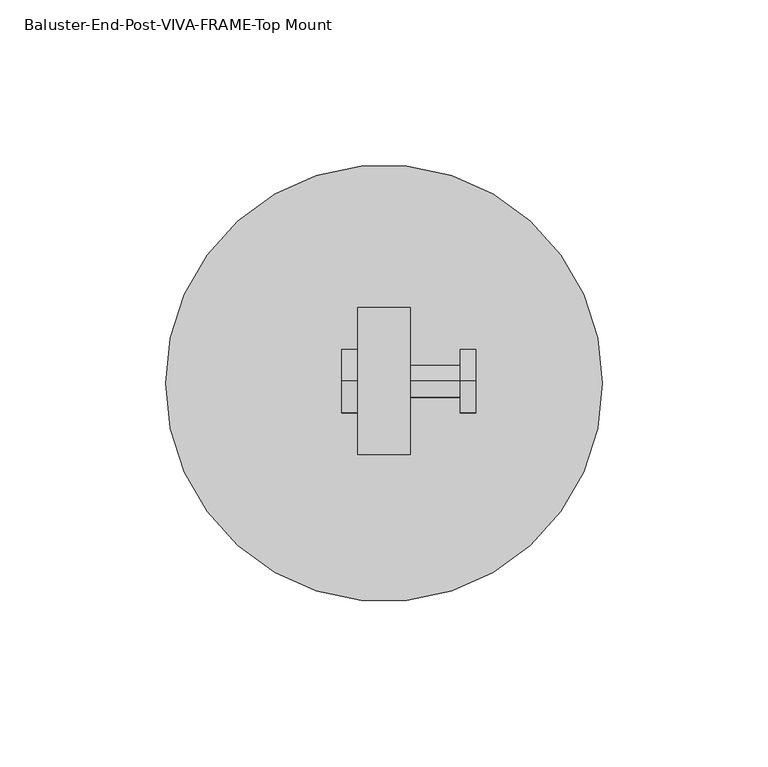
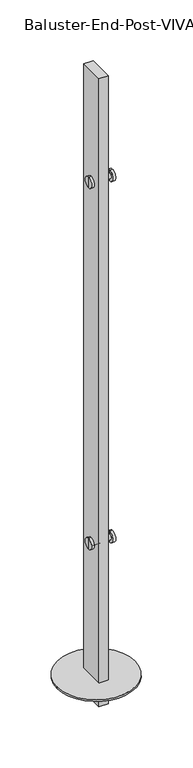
"""IFC4 building model written with IfcOpenShell, lengths in millimetres: proxy geometry, Baluster-End-Post-VIVA-FRAME-Top Mount : CORED INTO CONCRETE_TOP MOUNT FOLD_STRAIGHT."""

from ifc_helpers import new_model, si_unit, point, frame, frame_2d, origin, place, context, project, spatial, polyline, circle_curve, trimmed, segment, composite_curve, outline, extrude, source, transform, mapped, element, save
from ifc_brep_helpers import plane_surface, cylinder_surface, advanced_brep


def baluster_end_post_viva_frame_top_mount_933cdb12(model_context):
    return source(origin(), model_context, "Body", "SolidModel", [
        extrude(outline(polyline([(7.9375, -78.2802567), (7.9375, -122.7302567), (-7.9375, -122.7302567), (-7.9375, -78.2802567), (7.9375, -78.2802567)])), frame((0.0, 0.0, -39.2093072), z_axis=(0.0, 0.0, 1.0), x_axis=(1.0, 0.0, 0.0)), (0.0, 0.0, 1.0), 1125.3782846),
        advanced_brep(
        [(-12.7127, -100.5078, 231.7496), (-12.7127, -100.5078, 250.8504), (-12.7127, -100.5078, 241.3), (-7.9375, -100.5078, 231.7496), (-7.9375, -100.5078, 250.8504), (-7.9375, -100.5078, 236.5248), (-7.9375, -100.5078, 246.0752), (22.9997, -100.5078, 236.5248), (22.9997, -100.5078, 246.0752), (22.9997, -100.5078, 231.7496), (22.9997, -100.5078, 250.8504), (27.7749, -100.5078, 231.7496), (27.7749, -100.5078, 250.8504), (27.7749, -100.5078, 241.3)],
        [
            (0, 1, circle_curve(frame((-12.7127, -100.5078, 241.3), z_axis=(-1.0, 0.0, 0.0), x_axis=(0.0, 0.0, 1.0)), 9.5504)),
            (1, 2),
            (2, 0),
            (1, 0, circle_curve(frame((-12.7127, -100.5078, 241.3), z_axis=(-1.0, 0.0, 0.0), x_axis=(0.0, 0.0, 1.0)), 9.5504)),
            (3, 4, circle_curve(frame((-7.9375, -100.5078, 241.3), z_axis=(-1.0, 0.0, 0.0), x_axis=(0.0, 0.0, 1.0)), 9.5504)),
            (4, 1),
            (0, 3),
            (4, 3, circle_curve(frame((-7.9375, -100.5078, 241.3), z_axis=(-1.0, 0.0, 0.0), x_axis=(0.0, 0.0, 1.0)), 9.5504)),
            (5, 6, circle_curve(frame((-7.9375, -100.5078, 241.3), z_axis=(-1.0, 0.0, 0.0), x_axis=(0.0, 0.0, 1.0)), 4.7752)),
            (6, 4),
            (3, 5),
            (6, 5, circle_curve(frame((-7.9375, -100.5078, 241.3), z_axis=(-1.0, 0.0, 0.0), x_axis=(0.0, 0.0, 1.0)), 4.7752)),
            (7, 8, circle_curve(frame((22.9997, -100.5078, 241.3), z_axis=(-1.0, 0.0, 0.0), x_axis=(0.0, 0.0, 1.0)), 4.7752)),
            (8, 6),
            (5, 7),
            (8, 7, circle_curve(frame((22.9997, -100.5078, 241.3), z_axis=(-1.0, 0.0, 0.0), x_axis=(0.0, 0.0, 1.0)), 4.7752)),
            (9, 10, circle_curve(frame((22.9997, -100.5078, 241.3), z_axis=(-1.0, 0.0, 0.0), x_axis=(0.0, 0.0, 1.0)), 9.5504)),
            (10, 8),
            (7, 9),
            (10, 9, circle_curve(frame((22.9997, -100.5078, 241.3), z_axis=(-1.0, 0.0, 0.0), x_axis=(0.0, 0.0, 1.0)), 9.5504)),
            (11, 12, circle_curve(frame((27.7749, -100.5078, 241.3), z_axis=(-1.0, 0.0, 0.0), x_axis=(0.0, 0.0, 1.0)), 9.5504)),
            (12, 10),
            (9, 11),
            (12, 11, circle_curve(frame((27.7749, -100.5078, 241.3), z_axis=(-1.0, 0.0, 0.0), x_axis=(0.0, 0.0, 1.0)), 9.5504)),
            (13, 12),
            (11, 13),
        ],
        [
            plane_surface(frame((-12.7127, -100.5078, 241.3), z_axis=(-1.0, 0.0, 0.0), x_axis=(0.0, 0.0, 1.0))),
            cylinder_surface(frame((-3404.2930571, -100.5078, 241.3), z_axis=(1.0, 0.0, 0.0), x_axis=(0.0, 0.0, 1.0)), 9.5504),
            plane_surface(frame((-7.9375, -100.5078, 241.3), z_axis=(1.0, 0.0, 0.0), x_axis=(0.0, 0.0, 1.0))),
            cylinder_surface(frame((-3404.2930571, -100.5078, 241.3), z_axis=(1.0, 0.0, 0.0), x_axis=(0.0, 0.0, 1.0)), 4.7752),
            plane_surface(frame((22.9997, -100.5078, 241.3), z_axis=(-1.0, 0.0, 0.0), x_axis=(0.0, 0.0, 1.0))),
            plane_surface(frame((27.7749, -100.5078, 241.3), z_axis=(1.0, 0.0, 0.0), x_axis=(0.0, 0.0, 1.0))),
        ],
        [
            (0, [[1, 2, 3]]),
            (0, [[4, -3, -2]]),
            (1, [[5, 6, -1, 7]]),
            (1, [[8, -7, -4, -6]]),
            (2, [[9, 10, -5, 11]]),
            (2, [[12, -11, -8, -10]]),
            (3, [[13, 14, -9, 15]]),
            (3, [[16, -15, -12, -14]]),
            (4, [[17, 18, -13, 19]]),
            (4, [[20, -19, -16, -18]]),
            (1, [[21, 22, -17, 23]]),
            (1, [[24, -23, -20, -22]]),
            (5, [[25, -21, 26]]),
            (5, [[-26, -24, -25]]),
        ],
    ),
        advanced_brep(
        [(-12.7127, -100.5078, 879.4559555), (-12.7127, -100.5078, 898.5567555), (-12.7127, -100.5078, 889.0063555), (-7.9375, -100.5078, 879.4559555), (-7.9375, -100.5078, 898.5567555), (-7.9375, -100.5078, 884.2311555), (-7.9375, -100.5078, 893.7815555), (22.9997, -100.5078, 884.2311555), (22.9997, -100.5078, 893.7815555), (22.9997, -100.5078, 879.4559555), (22.9997, -100.5078, 898.5567555), (27.7749, -100.5078, 879.4559555), (27.7749, -100.5078, 898.5567555), (27.7749, -100.5078, 889.0063555)],
        [
            (0, 1, circle_curve(frame((-12.7127, -100.5078, 889.0063555), z_axis=(-1.0, 0.0, 0.0), x_axis=(0.0, 0.0, 1.0)), 9.5504)),
            (1, 2),
            (2, 0),
            (1, 0, circle_curve(frame((-12.7127, -100.5078, 889.0063555), z_axis=(-1.0, 0.0, 0.0), x_axis=(0.0, 0.0, 1.0)), 9.5504)),
            (3, 4, circle_curve(frame((-7.9375, -100.5078, 889.0063555), z_axis=(-1.0, 0.0, 0.0), x_axis=(0.0, 0.0, 1.0)), 9.5504)),
            (4, 1),
            (0, 3),
            (4, 3, circle_curve(frame((-7.9375, -100.5078, 889.0063555), z_axis=(-1.0, 0.0, 0.0), x_axis=(0.0, 0.0, 1.0)), 9.5504)),
            (5, 6, circle_curve(frame((-7.9375, -100.5078, 889.0063555), z_axis=(-1.0, 0.0, 0.0), x_axis=(0.0, 0.0, 1.0)), 4.7752)),
            (6, 4),
            (3, 5),
            (6, 5, circle_curve(frame((-7.9375, -100.5078, 889.0063555), z_axis=(-1.0, 0.0, 0.0), x_axis=(0.0, 0.0, 1.0)), 4.7752)),
            (7, 8, circle_curve(frame((22.9997, -100.5078, 889.0063555), z_axis=(-1.0, 0.0, 0.0), x_axis=(0.0, 0.0, 1.0)), 4.7752)),
            (8, 6),
            (5, 7),
            (8, 7, circle_curve(frame((22.9997, -100.5078, 889.0063555), z_axis=(-1.0, 0.0, 0.0), x_axis=(0.0, 0.0, 1.0)), 4.7752)),
            (9, 10, circle_curve(frame((22.9997, -100.5078, 889.0063555), z_axis=(-1.0, 0.0, 0.0), x_axis=(0.0, 0.0, 1.0)), 9.5504)),
            (10, 8),
            (7, 9),
            (10, 9, circle_curve(frame((22.9997, -100.5078, 889.0063555), z_axis=(-1.0, 0.0, 0.0), x_axis=(0.0, 0.0, 1.0)), 9.5504)),
            (11, 12, circle_curve(frame((27.7749, -100.5078, 889.0063555), z_axis=(-1.0, 0.0, 0.0), x_axis=(0.0, 0.0, 1.0)), 9.5504)),
            (12, 10),
            (9, 11),
            (12, 11, circle_curve(frame((27.7749, -100.5078, 889.0063555), z_axis=(-1.0, 0.0, 0.0), x_axis=(0.0, 0.0, 1.0)), 9.5504)),
            (13, 12),
            (11, 13),
        ],
        [
            plane_surface(frame((-12.7127, -100.5078, 889.0063555), z_axis=(-1.0, 0.0, 0.0), x_axis=(0.0, 0.0, 1.0))),
            cylinder_surface(frame((-3404.2930571, -100.5078, 889.0063555), z_axis=(1.0, 0.0, 0.0), x_axis=(0.0, 0.0, 1.0)), 9.5504),
            plane_surface(frame((-7.9375, -100.5078, 889.0063555), z_axis=(1.0, 0.0, 0.0), x_axis=(0.0, 0.0, 1.0))),
            cylinder_surface(frame((-3404.2930571, -100.5078, 889.0063555), z_axis=(1.0, 0.0, 0.0), x_axis=(0.0, 0.0, 1.0)), 4.7752),
            plane_surface(frame((22.9997, -100.5078, 889.0063555), z_axis=(-1.0, 0.0, 0.0), x_axis=(0.0, 0.0, 1.0))),
            plane_surface(frame((27.7749, -100.5078, 889.0063555), z_axis=(1.0, 0.0, 0.0), x_axis=(0.0, 0.0, 1.0))),
        ],
        [
            (0, [[1, 2, 3]]),
            (0, [[4, -3, -2]]),
            (1, [[5, 6, -1, 7]]),
            (1, [[8, -7, -4, -6]]),
            (2, [[9, 10, -5, 11]]),
            (2, [[12, -11, -8, -10]]),
            (3, [[13, 14, -9, 15]]),
            (3, [[16, -15, -12, -14]]),
            (4, [[17, 18, -13, 19]]),
            (4, [[20, -19, -16, -18]]),
            (1, [[21, 22, -17, 23]]),
            (1, [[24, -23, -20, -22]]),
            (5, [[25, -21, 26]]),
            (5, [[-26, -24, -25]]),
        ],
    ),
        extrude(outline(composite_curve([segment(trimmed(circle_curve(frame_2d((0.0, -100.9769621)), 66.0), [point((-66.0, -100.9769621))], [point((66.0, -100.9769621))], False, "CARTESIAN"), True, "CONTINUOUS"), segment(trimmed(circle_curve(frame_2d((0.0, -100.9769621)), 66.0), [point((66.0, -100.9769621))], [point((-66.0, -100.9769621))], False, "CARTESIAN"), True, "CONTINUOUS")], self_intersect=False)), frame((0.0, 0.0, 0.5143555), z_axis=(0.0, 0.0, 1.0), x_axis=(1.0, 0.0, 0.0)), (0.0, 0.0, 1.0), 3.0),
    ])


if __name__ == "__main__":
    model = new_model("IFC4")
    model_context = context("Model", 3, world=origin())
    ifc_project = project(units=[si_unit("LENGTHUNIT", "METRE", prefix="MILLI")], contexts=[model_context])
    site = spatial("IfcSite", under=ifc_project)
    building = spatial("IfcBuilding", under=site)
    placement = place(None, origin())
    baluster_end_post_viva_frame_top_mount_shape = baluster_end_post_viva_frame_top_mount_933cdb12(model_context)
    element("IfcBuildingElementProxy", 1, Name="Baluster-End-Post-VIVA-FRAME-Top Mount : CORED INTO CONCRETE_TOP MOUNT FOLD_STRAIGHT", ObjectType="Baluster-End-Post-VIVA-FRAME-Top Mount : CORED INTO CONCRETE_TOP MOUNT FOLD_STRAIGHT", at=placement, inside=building, context=model_context, shape_type="MappedRepresentation", body=[
        mapped(baluster_end_post_viva_frame_top_mount_shape, transform((0.0, 0.0, 0.0), x_axis=(1.0, 0.0, 0.0), y_axis=(0.0, 1.0, 0.0), z_axis=(0.0, 0.0, 1.0))),
    ])
    save(model, "model.ifc")
